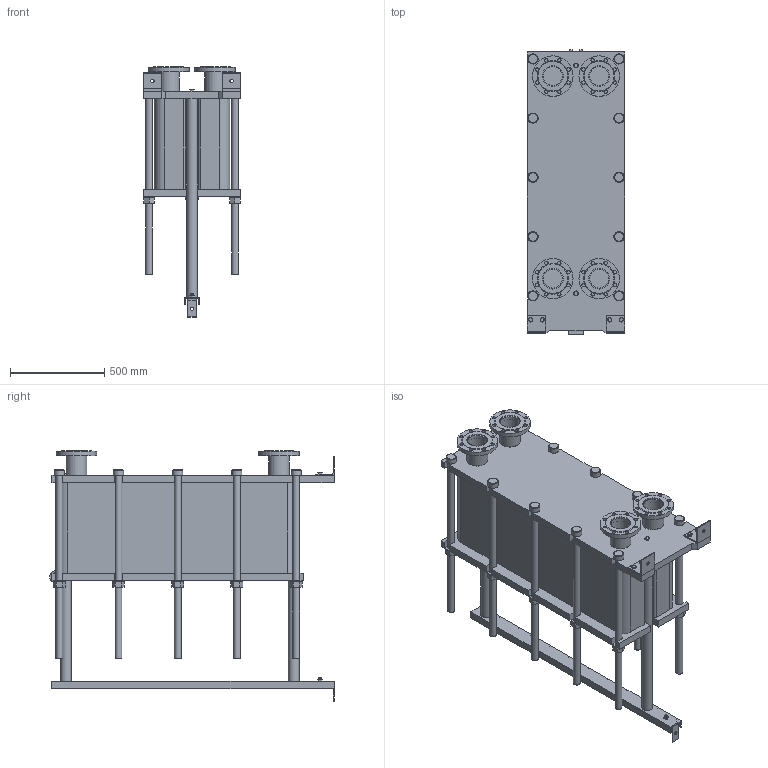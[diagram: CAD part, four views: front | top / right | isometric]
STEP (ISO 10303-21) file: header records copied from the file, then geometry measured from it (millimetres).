
FILE_DESCRIPTION(/* description */ (''),/* implementation_level */ '2;1');
FILE_NAME(/* name */ 'C:\Users\zhuro\Desktop\ENCO\TO\ЭН-04\ЭН-0,5-04-139-1.stp',/* time_stamp */ '2022-06-06T10:57:53+03:00',/* author */ ('zhuro'),/* organization */ (''),/* preprocessor_version */ 'ST-DEVELOPER v18.1',/* originating_system */ 'Autodesk Inventor 2022',/* authorisation */ '');
FILE_SCHEMA (('AUTOMOTIVE_DESIGN { 1 0 10303 214 3 1 1 }'));
Length unit declared in the file: millimetre
Products named in the file (1): ЭН-0,5-04-139-1
Bounding box: 520 x 1510 x 1329.5 mm (x, y, z)
Volume: 312963303.4 mm3; surface area: 9212875.6 mm2
Topology: 45 solids, 45 shells, 668 faces, 1611 edges, 1048 vertices
Faces by surface type: plane 457, cylinder 166, cone 39, torus 6
Full cylindrical faces by diameter (mm): 8 x4, 10 x2, 16 x8, 18 x35, 36 x25, 40 x2, 42 x1, 45 x4, 54 x10, 57 x2, 60 x10, 68 x2, 100 x4, 110 x8, 215 x4
Entity records: 23607 total; most frequent: CARTESIAN_POINT 7348, DIRECTION 3371, ORIENTED_EDGE 3142, EDGE_CURVE 1571, AXIS2_PLACEMENT_3D 1199, VERTEX_POINT 1044, LINE 973, VECTOR 973
